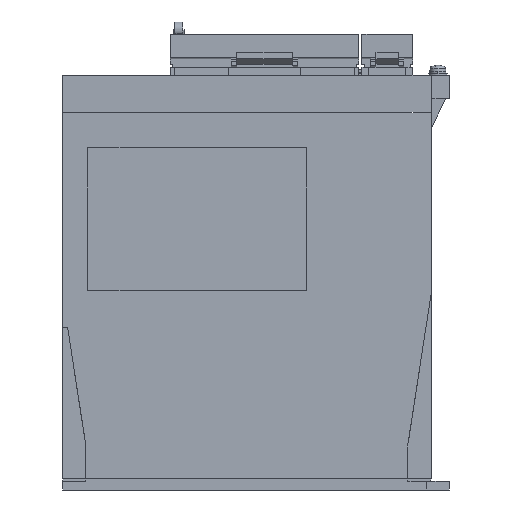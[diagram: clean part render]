
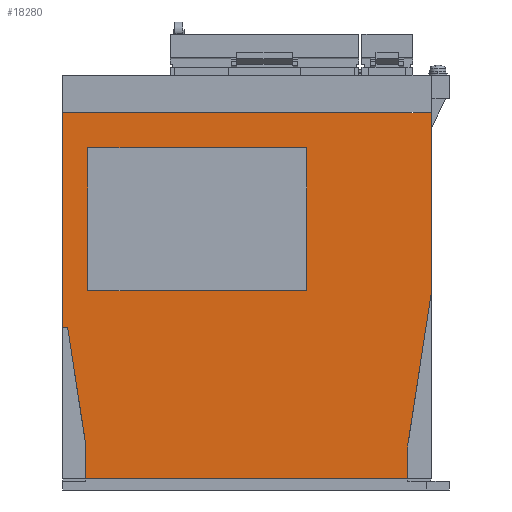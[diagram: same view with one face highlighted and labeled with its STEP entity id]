
A CAD part, left-side view. The second image highlights one B-rep face of the part: STEP entity #18280.
In plain terms, the highlighted planar face has unit normal (-1, 0, 0).
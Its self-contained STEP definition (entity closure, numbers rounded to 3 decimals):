
#338=DIRECTION('',(0.,1.,0.));
#339=VECTOR('',#338,160.);
#340=CARTESIAN_POINT('',(0.,0.,163.9));
#341=LINE('',#340,#339);
#1394=DIRECTION('',(0.,-1.,0.));
#1395=VECTOR('',#1394,140.);
#1396=CARTESIAN_POINT('',(0.,150.,4.9));
#1397=LINE('',#1396,#1395);
#1590=DIRECTION('',(0.,0.,1.));
#1591=VECTOR('',#1590,15.1);
#1592=CARTESIAN_POINT('',(0.,150.,4.9));
#1593=LINE('',#1592,#1591);
#1594=DIRECTION('',(0.,-1.,0.));
#1595=VECTOR('',#1594,2.2);
#1596=CARTESIAN_POINT('',(0.,160.,70.7));
#1597=LINE('',#1596,#1595);
#1598=DIRECTION('',(0.,0.,1.));
#1599=VECTOR('',#1598,93.2);
#1600=CARTESIAN_POINT('',(0.,160.,70.7));
#1601=LINE('',#1600,#1599);
#1602=DIRECTION('',(0.,0.,-1.));
#1603=VECTOR('',#1602,78.9);
#1604=CARTESIAN_POINT('',(0.,0.,163.9));
#1605=LINE('',#1604,#1603);
#1606=DIRECTION('',(0.,0.152,-0.988));
#1607=VECTOR('',#1606,65.765);
#1608=CARTESIAN_POINT('',(0.,0.,85.));
#1609=LINE('',#1608,#1607);
#1610=DIRECTION('',(0.,0.,1.));
#1611=VECTOR('',#1610,62.);
#1612=CARTESIAN_POINT('',(0.,54.,86.6));
#1613=LINE('',#1612,#1611);
#1614=DIRECTION('',(0.,1.,0.));
#1615=VECTOR('',#1614,95.);
#1616=CARTESIAN_POINT('',(0.,54.,148.6));
#1617=LINE('',#1616,#1615);
#1618=DIRECTION('',(0.,0.,-1.));
#1619=VECTOR('',#1618,62.);
#1620=CARTESIAN_POINT('',(0.,149.,148.6));
#1621=LINE('',#1620,#1619);
#1646=DIRECTION('',(0.,-0.152,-0.988));
#1647=VECTOR('',#1646,51.296);
#1648=CARTESIAN_POINT('',(0.,157.8,70.7));
#1649=LINE('',#1648,#1647);
#1782=DIRECTION('',(0.,0.,1.));
#1783=VECTOR('',#1782,15.1);
#1784=CARTESIAN_POINT('',(0.,10.,4.9));
#1785=LINE('',#1784,#1783);
#1874=DIRECTION('',(0.,1.,0.));
#1875=VECTOR('',#1874,95.);
#1876=CARTESIAN_POINT('',(0.,54.,86.6));
#1877=LINE('',#1876,#1875);
#12391=CARTESIAN_POINT('',(0.,0.,85.));
#12392=CARTESIAN_POINT('',(0.,10.,20.));
#12393=VERTEX_POINT('',#12391);
#12394=VERTEX_POINT('',#12392);
#12407=CARTESIAN_POINT('',(0.,54.,148.6));
#12408=CARTESIAN_POINT('',(0.,149.,148.6));
#12409=VERTEX_POINT('',#12407);
#12410=VERTEX_POINT('',#12408);
#12411=CARTESIAN_POINT('',(0.,149.,86.6));
#12412=VERTEX_POINT('',#12411);
#12413=CARTESIAN_POINT('',(0.,54.,86.6));
#12414=VERTEX_POINT('',#12413);
#12941=CARTESIAN_POINT('',(0.,150.,20.));
#12943=VERTEX_POINT('',#12941);
#12951=CARTESIAN_POINT('',(0.,160.,70.7));
#12952=CARTESIAN_POINT('',(0.,157.8,70.7));
#12953=VERTEX_POINT('',#12951);
#12954=VERTEX_POINT('',#12952);
#13107=CARTESIAN_POINT('',(0.,10.,4.9));
#13108=VERTEX_POINT('',#13107);
#13119=CARTESIAN_POINT('',(0.,0.,163.9));
#13121=VERTEX_POINT('',#13119);
#13123=CARTESIAN_POINT('',(0.,160.,163.9));
#13124=VERTEX_POINT('',#13123);
#13149=CARTESIAN_POINT('',(0.,150.,4.9));
#13150=VERTEX_POINT('',#13149);
#18249=CARTESIAN_POINT('',(0.,160.,0.));
#18250=DIRECTION('',(-1.,0.,0.));
#18251=DIRECTION('',(0.,-1.,0.));
#18252=AXIS2_PLACEMENT_3D('',#18249,#18250,#18251);
#18253=PLANE('',#18252);
#18254=ORIENTED_EDGE('',*,*,#17996,.F.);
#18256=ORIENTED_EDGE('',*,*,#18255,.T.);
#18258=ORIENTED_EDGE('',*,*,#18257,.F.);
#18260=ORIENTED_EDGE('',*,*,#18259,.F.);
#18261=ORIENTED_EDGE('',*,*,#18141,.T.);
#18262=ORIENTED_EDGE('',*,*,#16758,.F.);
#18263=ORIENTED_EDGE('',*,*,#17934,.T.);
#18265=ORIENTED_EDGE('',*,*,#18264,.T.);
#18267=ORIENTED_EDGE('',*,*,#18266,.F.);
#18268=EDGE_LOOP('',(#18254,#18256,#18258,#18260,#18261,#18262,#18263,#18265,
#18267));
#18269=FACE_OUTER_BOUND('',#18268,.F.);
#18271=ORIENTED_EDGE('',*,*,#18270,.F.);
#18273=ORIENTED_EDGE('',*,*,#18272,.T.);
#18275=ORIENTED_EDGE('',*,*,#18274,.T.);
#18277=ORIENTED_EDGE('',*,*,#18276,.T.);
#18278=EDGE_LOOP('',(#18271,#18273,#18275,#18277));
#18279=FACE_BOUND('',#18278,.F.);
#16758=EDGE_CURVE('',#13121,#13124,#341,.T.);
#17934=EDGE_CURVE('',#13121,#12393,#1605,.T.);
#17996=EDGE_CURVE('',#13150,#13108,#1397,.T.);
#18141=EDGE_CURVE('',#12953,#13124,#1601,.T.);
#18255=EDGE_CURVE('',#13150,#12943,#1593,.T.);
#18257=EDGE_CURVE('',#12954,#12943,#1649,.T.);
#18259=EDGE_CURVE('',#12953,#12954,#1597,.T.);
#18264=EDGE_CURVE('',#12393,#12394,#1609,.T.);
#18266=EDGE_CURVE('',#13108,#12394,#1785,.T.);
#18270=EDGE_CURVE('',#12414,#12412,#1877,.T.);
#18272=EDGE_CURVE('',#12414,#12409,#1613,.T.);
#18274=EDGE_CURVE('',#12409,#12410,#1617,.T.);
#18276=EDGE_CURVE('',#12410,#12412,#1621,.T.);
#18280=ADVANCED_FACE('',(#18269,#18279),#18253,.T.);
